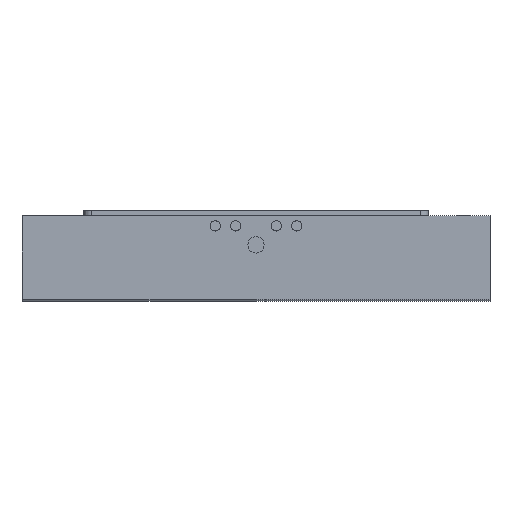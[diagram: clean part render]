
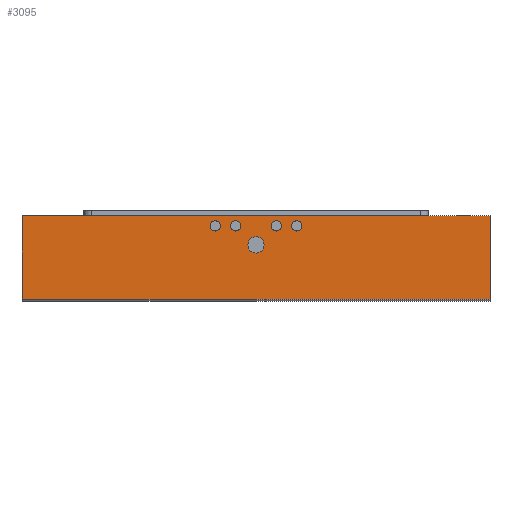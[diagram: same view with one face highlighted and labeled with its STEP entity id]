
A CAD part, front view. The second image highlights one B-rep face of the part: STEP entity #3095.
In plain terms, the highlighted planar face has unit normal (0, -1, 0).
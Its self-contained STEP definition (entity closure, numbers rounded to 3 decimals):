
#430 = AXIS2_PLACEMENT_3D ( 'NONE', #909, #881, #894 ) ;
#451 = AXIS2_PLACEMENT_3D ( 'NONE', #877, #904, #880 ) ;
#457 = AXIS2_PLACEMENT_3D ( 'NONE', #1017, #1009, #1004 ) ;
#460 = AXIS2_PLACEMENT_3D ( 'NONE', #1007, #1015, #996 ) ;
#464 = AXIS2_PLACEMENT_3D ( 'NONE', #950, #912, #929 ) ;
#476 = AXIS2_PLACEMENT_3D ( 'NONE', #919, #931, #939 ) ;
#477 = AXIS2_PLACEMENT_3D ( 'NONE', #940, #916, #925 ) ;
#491 = AXIS2_PLACEMENT_3D ( 'NONE', #1204, #1212, #1186 ) ;
#519 = AXIS2_PLACEMENT_3D ( 'NONE', #1249, #1314, #1252 ) ;
#524 = AXIS2_PLACEMENT_3D ( 'NONE', #1106, #1067, #1128 ) ;
#877 = CARTESIAN_POINT ( 'NONE',  ( 75.14, -0.15, -3.96 ) ) ;
#880 = DIRECTION ( 'NONE',  ( -1., 0., 0. ) ) ;
#881 = DIRECTION ( 'NONE',  ( 0., 1., 0. ) ) ;
#894 = DIRECTION ( 'NONE',  ( -1., 0., 0. ) ) ;
#904 = DIRECTION ( 'NONE',  ( 0., 1., 0. ) ) ;
#909 = CARTESIAN_POINT ( 'NONE',  ( 91., -0.15, -11.352 ) ) ;
#912 = DIRECTION ( 'NONE',  ( 0., 1., 0. ) ) ;
#916 = DIRECTION ( 'NONE',  ( 0., 1., 0. ) ) ;
#919 = CARTESIAN_POINT ( 'NONE',  ( 98.93, -0.15, -3.96 ) ) ;
#925 = DIRECTION ( 'NONE',  ( -1., 0., 0. ) ) ;
#929 = DIRECTION ( 'NONE',  ( -1., 0., 0. ) ) ;
#931 = DIRECTION ( 'NONE',  ( 0., 1., 0. ) ) ;
#939 = DIRECTION ( 'NONE',  ( -1., 0., 0. ) ) ;
#940 = CARTESIAN_POINT ( 'NONE',  ( 83.07, -0.15, -3.96 ) ) ;
#950 = CARTESIAN_POINT ( 'NONE',  ( 106.86, -0.15, -3.96 ) ) ;
#996 = DIRECTION ( 'NONE',  ( -1., 0., 0. ) ) ;
#1004 = DIRECTION ( 'NONE',  ( -1., 0., 0. ) ) ;
#1007 = CARTESIAN_POINT ( 'NONE',  ( 98.93, -0.15, -3.96 ) ) ;
#1009 = DIRECTION ( 'NONE',  ( 0., 1., 0. ) ) ;
#1015 = DIRECTION ( 'NONE',  ( 0., 1., 0. ) ) ;
#1017 = CARTESIAN_POINT ( 'NONE',  ( 91., -0.15, -11.352 ) ) ;
#1067 = DIRECTION ( 'NONE',  ( 0., 1., 0. ) ) ;
#1098 = DIRECTION ( 'NONE',  ( 0., 0., -1. ) ) ;
#1106 = CARTESIAN_POINT ( 'NONE',  ( 75.14, -0.15, -3.96 ) ) ;
#1128 = DIRECTION ( 'NONE',  ( -1., 0., 0. ) ) ;
#1132 = CARTESIAN_POINT ( 'NONE',  ( 0., -0.15, -20.22 ) ) ;
#1135 = CARTESIAN_POINT ( 'NONE',  ( 9.25, -0.15, 0. ) ) ;
#1139 = CARTESIAN_POINT ( 'NONE',  ( 9.25, -0.15, -32.52 ) ) ;
#1150 = DIRECTION ( 'NONE',  ( 1., 0., 0. ) ) ;
#1186 = DIRECTION ( 'NONE',  ( -1., 0., 0. ) ) ;
#1204 = CARTESIAN_POINT ( 'NONE',  ( 83.07, -0.15, -3.96 ) ) ;
#1212 = DIRECTION ( 'NONE',  ( 0., 1., 0. ) ) ;
#1227 = DIRECTION ( 'NONE',  ( 1., 0., 0. ) ) ;
#1233 = CARTESIAN_POINT ( 'NONE',  ( 182., -0.15, -20.22 ) ) ;
#1241 = DIRECTION ( 'NONE',  ( 0., 0., 1. ) ) ;
#1249 = CARTESIAN_POINT ( 'NONE',  ( 106.86, -0.15, -3.96 ) ) ;
#1252 = DIRECTION ( 'NONE',  ( -1., 0., 0. ) ) ;
#1314 = DIRECTION ( 'NONE',  ( 0., 1., 0. ) ) ;
#2453 = CIRCLE ( 'NONE', #477, 2. ) ;
#2458 = CIRCLE ( 'NONE', #430, 3.15 ) ;
#2460 = CIRCLE ( 'NONE', #451, 2. ) ;
#2487 = CIRCLE ( 'NONE', #464, 2. ) ;
#2499 = CIRCLE ( 'NONE', #476, 2. ) ;
#2522 = CIRCLE ( 'NONE', #460, 2. ) ;
#2525 = CIRCLE ( 'NONE', #457, 3.15 ) ;
#2561 = LINE ( 'NONE', #1132, #2566 ) ;
#2566 = VECTOR ( 'NONE', #1098, 1000. ) ;
#2578 = VECTOR ( 'NONE', #1150, 1000. ) ;
#2579 = LINE ( 'NONE', #1233, #2588 ) ;
#2581 = CIRCLE ( 'NONE', #491, 2. ) ;
#2585 = VECTOR ( 'NONE', #1227, 1000. ) ;
#2588 = VECTOR ( 'NONE', #1241, 1000. ) ;
#2593 = CIRCLE ( 'NONE', #524, 2. ) ;
#2611 = CIRCLE ( 'NONE', #519, 2. ) ;
#2625 = LINE ( 'NONE', #1135, #2585 ) ;
#2628 = LINE ( 'NONE', #1139, #2578 ) ;
#3095 = ADVANCED_FACE ( 'NONE', ( #6127, #6112, #6128, #6130, #6114, #6118 ), #6545, .T. ) ;
#3554 = EDGE_LOOP ( 'NONE', ( #3715, #3674, #3712, #3707 ) ) ;
#3555 = EDGE_LOOP ( 'NONE', ( #3713, #3719 ) ) ;
#3563 = EDGE_LOOP ( 'NONE', ( #3721, #3691 ) ) ;
#3584 = EDGE_LOOP ( 'NONE', ( #3724, #3714 ) ) ;
#3591 = EDGE_LOOP ( 'NONE', ( #3694, #3669 ) ) ;
#3605 = EDGE_LOOP ( 'NONE', ( #3708, #3681 ) ) ;
#3669 = ORIENTED_EDGE ( 'NONE', *, *, #8240, .T. ) ;
#3674 = ORIENTED_EDGE ( 'NONE', *, *, #8291, .T. ) ;
#3681 = ORIENTED_EDGE ( 'NONE', *, *, #8222, .T. ) ;
#3691 = ORIENTED_EDGE ( 'NONE', *, *, #8214, .T. ) ;
#3694 = ORIENTED_EDGE ( 'NONE', *, *, #8271, .T. ) ;
#3707 = ORIENTED_EDGE ( 'NONE', *, *, #8328, .T. ) ;
#3708 = ORIENTED_EDGE ( 'NONE', *, *, #8294, .T. ) ;
#3712 = ORIENTED_EDGE ( 'NONE', *, *, #8314, .T. ) ;
#3713 = ORIENTED_EDGE ( 'NONE', *, *, #8298, .T. ) ;
#3714 = ORIENTED_EDGE ( 'NONE', *, *, #8237, .T. ) ;
#3715 = ORIENTED_EDGE ( 'NONE', *, *, #8300, .F. ) ;
#3719 = ORIENTED_EDGE ( 'NONE', *, *, #8239, .T. ) ;
#3721 = ORIENTED_EDGE ( 'NONE', *, *, #8268, .T. ) ;
#3724 = ORIENTED_EDGE ( 'NONE', *, *, #8317, .T. ) ;
#4774 = VERTEX_POINT ( 'NONE', #8587 ) ;
#4788 = VERTEX_POINT ( 'NONE', #8618 ) ;
#4790 = VERTEX_POINT ( 'NONE', #8608 ) ;
#4799 = VERTEX_POINT ( 'NONE', #8630 ) ;
#4804 = VERTEX_POINT ( 'NONE', #8615 ) ;
#4807 = VERTEX_POINT ( 'NONE', #8602 ) ;
#4812 = VERTEX_POINT ( 'NONE', #8583 ) ;
#4814 = VERTEX_POINT ( 'NONE', #8597 ) ;
#4824 = VERTEX_POINT ( 'NONE', #8639 ) ;
#4825 = VERTEX_POINT ( 'NONE', #8576 ) ;
#4830 = VERTEX_POINT ( 'NONE', #8599 ) ;
#4836 = VERTEX_POINT ( 'NONE', #8700 ) ;
#4851 = VERTEX_POINT ( 'NONE', #8682 ) ;
#4881 = VERTEX_POINT ( 'NONE', #8642 ) ;
#5560 = AXIS2_PLACEMENT_3D ( 'NONE', #6520, #6526, #6553 ) ;
#6112 = FACE_BOUND ( 'NONE', #3605, .T. ) ;
#6114 = FACE_BOUND ( 'NONE', #3584, .T. ) ;
#6118 = FACE_BOUND ( 'NONE', #3563, .T. ) ;
#6127 = FACE_OUTER_BOUND ( 'NONE', #3554, .T. ) ;
#6128 = FACE_BOUND ( 'NONE', #3555, .T. ) ;
#6130 = FACE_BOUND ( 'NONE', #3591, .T. ) ;
#6520 = CARTESIAN_POINT ( 'NONE',  ( 9.25, -0.15, -20.22 ) ) ;
#6526 = DIRECTION ( 'NONE',  ( 0., -1., 0. ) ) ;
#6545 = PLANE ( 'NONE',  #5560 ) ;
#6553 = DIRECTION ( 'NONE',  ( 1., 0., 0. ) ) ;
#8214 = EDGE_CURVE ( 'NONE', #4788, #4799, #2458, .T. ) ;
#8222 = EDGE_CURVE ( 'NONE', #4824, #4774, #2460, .T. ) ;
#8237 = EDGE_CURVE ( 'NONE', #4830, #4825, #2487, .T. ) ;
#8239 = EDGE_CURVE ( 'NONE', #4790, #4804, #2453, .T. ) ;
#8240 = EDGE_CURVE ( 'NONE', #4807, #4814, #2499, .T. ) ;
#8268 = EDGE_CURVE ( 'NONE', #4799, #4788, #2525, .T. ) ;
#8271 = EDGE_CURVE ( 'NONE', #4814, #4807, #2522, .T. ) ;
#8291 = EDGE_CURVE ( 'NONE', #4881, #4812, #2561, .T. ) ;
#8294 = EDGE_CURVE ( 'NONE', #4774, #4824, #2593, .T. ) ;
#8298 = EDGE_CURVE ( 'NONE', #4804, #4790, #2581, .T. ) ;
#8300 = EDGE_CURVE ( 'NONE', #4881, #4836, #2625, .T. ) ;
#8314 = EDGE_CURVE ( 'NONE', #4812, #4851, #2628, .T. ) ;
#8317 = EDGE_CURVE ( 'NONE', #4825, #4830, #2611, .T. ) ;
#8328 = EDGE_CURVE ( 'NONE', #4851, #4836, #2579, .T. ) ;
#8576 = CARTESIAN_POINT ( 'NONE',  ( 104.86, -0.15, -3.96 ) ) ;
#8583 = CARTESIAN_POINT ( 'NONE',  ( 0., -0.15, -32.52 ) ) ;
#8587 = CARTESIAN_POINT ( 'NONE',  ( 73.14, -0.15, -3.96 ) ) ;
#8597 = CARTESIAN_POINT ( 'NONE',  ( 96.93, -0.15, -3.96 ) ) ;
#8599 = CARTESIAN_POINT ( 'NONE',  ( 108.86, -0.15, -3.96 ) ) ;
#8602 = CARTESIAN_POINT ( 'NONE',  ( 100.93, -0.15, -3.96 ) ) ;
#8608 = CARTESIAN_POINT ( 'NONE',  ( 85.07, -0.15, -3.96 ) ) ;
#8615 = CARTESIAN_POINT ( 'NONE',  ( 81.07, -0.15, -3.96 ) ) ;
#8618 = CARTESIAN_POINT ( 'NONE',  ( 94.15, -0.15, -11.352 ) ) ;
#8630 = CARTESIAN_POINT ( 'NONE',  ( 87.85, -0.15, -11.352 ) ) ;
#8639 = CARTESIAN_POINT ( 'NONE',  ( 77.14, -0.15, -3.96 ) ) ;
#8642 = CARTESIAN_POINT ( 'NONE',  ( 0., -0.15, 0. ) ) ;
#8682 = CARTESIAN_POINT ( 'NONE',  ( 182., -0.15, -32.52 ) ) ;
#8700 = CARTESIAN_POINT ( 'NONE',  ( 182., -0.15, 0. ) ) ;
